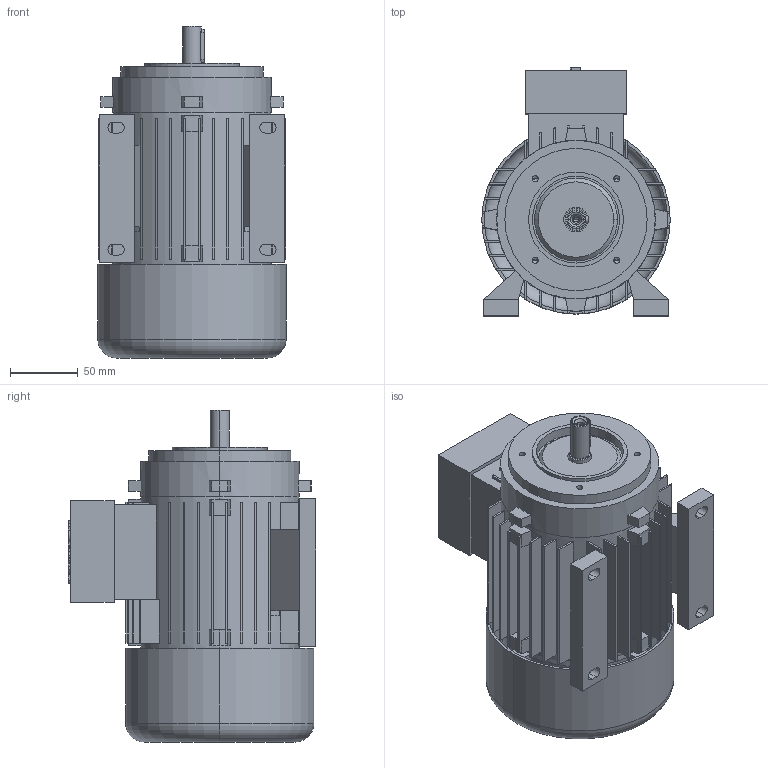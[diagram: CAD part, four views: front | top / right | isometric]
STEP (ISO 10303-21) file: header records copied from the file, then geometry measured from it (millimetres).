
FILE_DESCRIPTION (( 'STEP AP214' ), '1' );
FILE_NAME ('20.18269-F 5AZ 71 B34 small STANDK.STEP', '2018-07-16T09:52:26', ( '' ), ( '' ), 'SwSTEP 2.0', 'SolidWorks 2018', '' );
FILE_SCHEMA (( 'AUTOMOTIVE_DESIGN' ));
Length unit declared in the file: millimetre
Products named in the file (1): 20.18269-F 5AZ 71 B34 small STANDK
Bounding box: 139 x 183 x 245 mm (x, y, z)
Volume: 1013317.3 mm3; surface area: 386509.1 mm2
Topology: 9 solids, 9 shells, 527 faces, 1353 edges, 887 vertices
Faces by surface type: plane 350, cylinder 137, cone 27, bspline 9, torus 4
Entity records: 16346 total; most frequent: CARTESIAN_POINT 3031, DIRECTION 2779, ORIENTED_EDGE 2686, EDGE_CURVE 1343, AXIS2_PLACEMENT_3D 947, VERTEX_POINT 887, VECTOR 885, LINE 885
